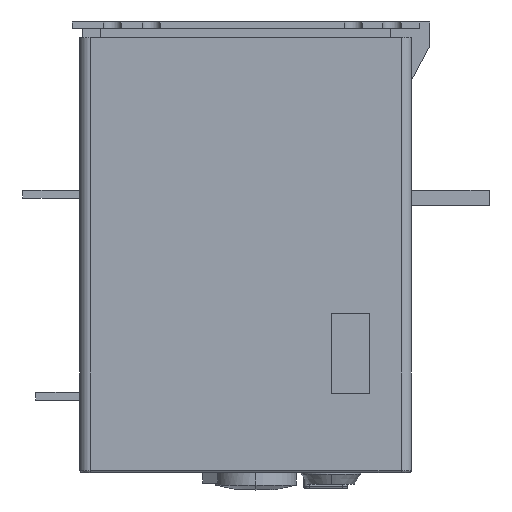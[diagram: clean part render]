
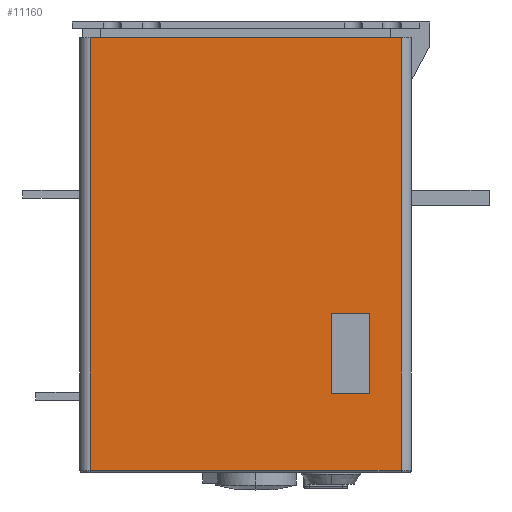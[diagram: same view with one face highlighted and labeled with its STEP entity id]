
A CAD part, left-side view. The second image highlights one B-rep face of the part: STEP entity #11160.
In plain terms, the highlighted planar face has unit normal (-1, 0, 0).
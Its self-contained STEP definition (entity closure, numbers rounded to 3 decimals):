
#2501=DIRECTION('',(0.,0.,1.));
#2502=VECTOR('',#2501,167.);
#2503=CARTESIAN_POINT('',(-366.,-56.,-165.));
#2504=LINE('',#2503,#2502);
#2505=DIRECTION('',(0.,-1.,0.));
#2506=VECTOR('',#2505,120.);
#2507=CARTESIAN_POINT('',(-366.,64.,-165.));
#2508=LINE('',#2507,#2506);
#2509=DIRECTION('',(0.,0.,-1.));
#2510=VECTOR('',#2509,167.);
#2511=CARTESIAN_POINT('',(-366.,64.,2.));
#2512=LINE('',#2511,#2510);
#2513=DIRECTION('',(0.,1.,0.));
#2514=VECTOR('',#2513,120.);
#2515=CARTESIAN_POINT('',(-366.,-56.,2.));
#2516=LINE('',#2515,#2514);
#2517=DIRECTION('',(0.,0.,1.));
#2518=VECTOR('',#2517,31.);
#2519=CARTESIAN_POINT('',(-366.,-44.,-135.5));
#2520=LINE('',#2519,#2518);
#2521=DIRECTION('',(0.,1.,0.));
#2522=VECTOR('',#2521,8.);
#2523=CARTESIAN_POINT('',(-366.,-44.,-104.5));
#2524=LINE('',#2523,#2522);
#2525=DIRECTION('',(0.,0.,-1.));
#2526=VECTOR('',#2525,31.);
#2527=CARTESIAN_POINT('',(-366.,-36.,-104.5));
#2528=LINE('',#2527,#2526);
#2529=DIRECTION('',(0.,-1.,0.));
#2530=VECTOR('',#2529,8.);
#2531=CARTESIAN_POINT('',(-366.,-36.,-135.5));
#2532=LINE('',#2531,#2530);
#7212=CARTESIAN_POINT('',(-366.,-56.,2.));
#7214=VERTEX_POINT('',#7212);
#7218=CARTESIAN_POINT('',(-366.,-56.,-165.));
#7219=VERTEX_POINT('',#7218);
#7228=CARTESIAN_POINT('',(-366.,64.,2.));
#7229=VERTEX_POINT('',#7228);
#7230=CARTESIAN_POINT('',(-366.,64.,-165.));
#7231=VERTEX_POINT('',#7230);
#7344=CARTESIAN_POINT('',(-366.,-44.,-135.5));
#7345=CARTESIAN_POINT('',(-366.,-44.,-104.5));
#7346=VERTEX_POINT('',#7344);
#7347=VERTEX_POINT('',#7345);
#7348=CARTESIAN_POINT('',(-366.,-36.,-104.5));
#7349=VERTEX_POINT('',#7348);
#7350=CARTESIAN_POINT('',(-366.,-36.,-135.5));
#7351=VERTEX_POINT('',#7350);
#11137=CARTESIAN_POINT('',(-366.,0.,0.));
#11138=DIRECTION('',(-1.,0.,0.));
#11139=DIRECTION('',(0.,1.,0.));
#11140=AXIS2_PLACEMENT_3D('',#11137,#11138,#11139);
#11141=PLANE('',#11140);
#11142=ORIENTED_EDGE('',*,*,#10666,.F.);
#11144=ORIENTED_EDGE('',*,*,#11143,.F.);
#11146=ORIENTED_EDGE('',*,*,#11145,.F.);
#11147=ORIENTED_EDGE('',*,*,#10677,.F.);
#11148=EDGE_LOOP('',(#11142,#11144,#11146,#11147));
#11149=FACE_OUTER_BOUND('',#11148,.F.);
#11151=ORIENTED_EDGE('',*,*,#11150,.T.);
#11153=ORIENTED_EDGE('',*,*,#11152,.T.);
#11155=ORIENTED_EDGE('',*,*,#11154,.T.);
#11157=ORIENTED_EDGE('',*,*,#11156,.T.);
#11158=EDGE_LOOP('',(#11151,#11153,#11155,#11157));
#11159=FACE_BOUND('',#11158,.F.);
#11160=ADVANCED_FACE('',(#11149,#11159),#11141,.T.);
#10666=EDGE_CURVE('',#7219,#7214,#2504,.T.);
#10677=EDGE_CURVE('',#7214,#7229,#2516,.T.);
#11143=EDGE_CURVE('',#7231,#7219,#2508,.T.);
#11145=EDGE_CURVE('',#7229,#7231,#2512,.T.);
#11150=EDGE_CURVE('',#7346,#7347,#2520,.T.);
#11152=EDGE_CURVE('',#7347,#7349,#2524,.T.);
#11154=EDGE_CURVE('',#7349,#7351,#2528,.T.);
#11156=EDGE_CURVE('',#7351,#7346,#2532,.T.);
